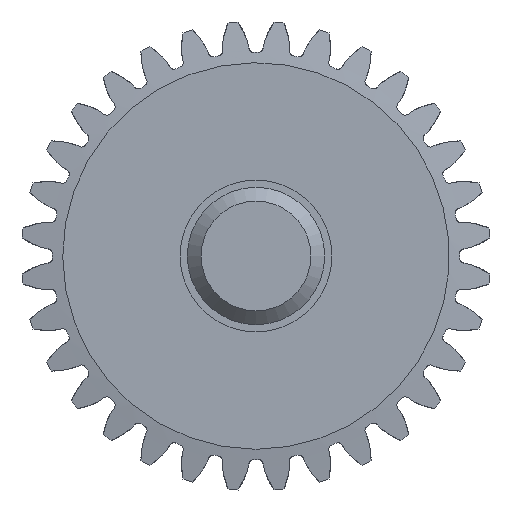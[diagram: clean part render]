
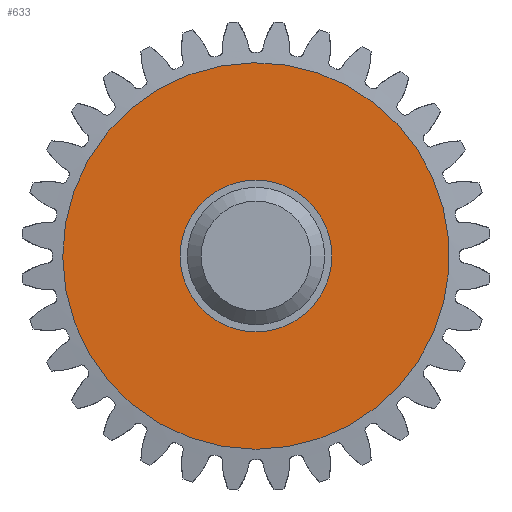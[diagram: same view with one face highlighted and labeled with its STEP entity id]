
A CAD part, front view. The second image highlights one B-rep face of the part: STEP entity #633.
In plain terms, the highlighted planar face has unit normal (0, -1, 0).
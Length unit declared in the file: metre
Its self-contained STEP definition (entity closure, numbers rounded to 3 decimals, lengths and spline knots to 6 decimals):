
#633 = ADVANCED_FACE( '', ( #1300, #1301 ), #1302, .T. );
#1300 = FACE_OUTER_BOUND( '', #2044, .T. );
#1301 = FACE_BOUND( '', #2045, .T. );
#1302 = PLANE( '', #2046 );
#2044 = EDGE_LOOP( '', ( #4751 ) );
#2045 = EDGE_LOOP( '', ( #4752 ) );
#2046 = AXIS2_PLACEMENT_3D( '', #4753, #4754, #4755 );
#4751 = ORIENTED_EDGE( '', *, *, #5540, .T. );
#4752 = ORIENTED_EDGE( '', *, *, #5334, .F. );
#4753 = CARTESIAN_POINT( '', ( 0., -0.005, 0. ) );
#4754 = DIRECTION( '', ( 0., -1., 0. ) );
#4755 = DIRECTION( '', ( 1., 0., 0. ) );
#5334 = EDGE_CURVE( '', #6427, #6427, #6428, .T. );
#5540 = EDGE_CURVE( '', #6784, #6784, #6785, .T. );
#6427 = VERTEX_POINT( '', #8883 );
#6428 = CIRCLE( '', #8884, 0.0055 );
#6784 = VERTEX_POINT( '', #10177 );
#6785 = CIRCLE( '', #10178, 0.014 );
#8883 = CARTESIAN_POINT( '', ( 0., -0.005, -0.0055 ) );
#8884 = AXIS2_PLACEMENT_3D( '', #11018, #11019, #11020 );
#10177 = CARTESIAN_POINT( '', ( 0., -0.005, -0.014 ) );
#10178 = AXIS2_PLACEMENT_3D( '', #11201, #11202, #11203 );
#11018 = CARTESIAN_POINT( '', ( 0., -0.005, 0. ) );
#11019 = DIRECTION( '', ( 0., -1., 0. ) );
#11020 = DIRECTION( '', ( 0., 0., -1. ) );
#11201 = CARTESIAN_POINT( '', ( 0., -0.005, 0. ) );
#11202 = DIRECTION( '', ( 0., -1., 0. ) );
#11203 = DIRECTION( '', ( 0., 0., -1. ) );
